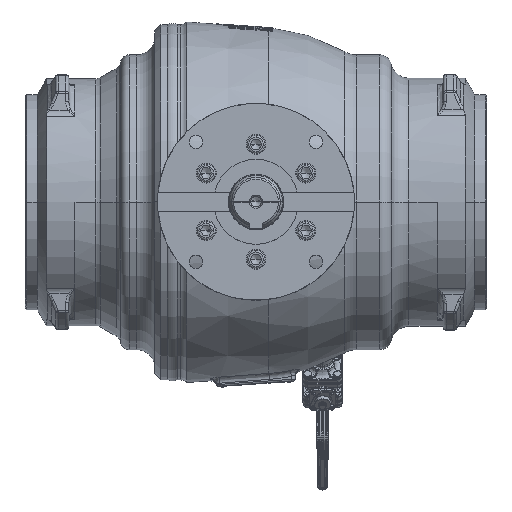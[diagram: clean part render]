
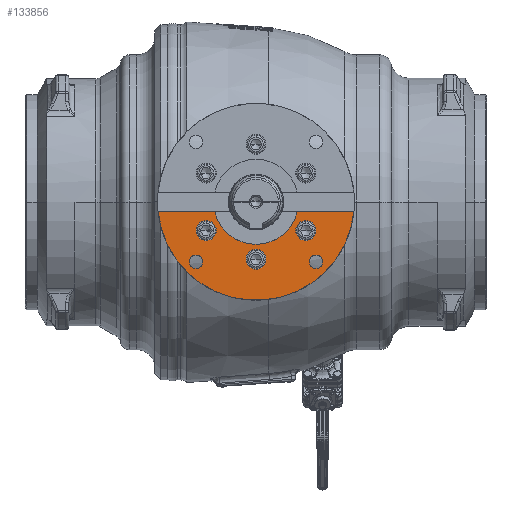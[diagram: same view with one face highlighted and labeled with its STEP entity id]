
A CAD part, top view. The second image highlights one B-rep face of the part: STEP entity #133856.
In plain terms, the highlighted planar face has unit normal (0, 0, 1).
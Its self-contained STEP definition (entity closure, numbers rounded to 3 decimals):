
#30819=DIRECTION('',(-1.,0.,0.));
#30820=VECTOR('',#30819,93.409);
#30821=CARTESIAN_POINT('',(161.71,-16.,443.));
#30822=LINE('',#30821,#30820);
#30823=CARTESIAN_POINT('',(0.,0.,443.));
#30824=DIRECTION('',(0.,0.,-1.));
#30825=DIRECTION('',(0.995,-0.098,0.));
#30826=AXIS2_PLACEMENT_3D('',#30823,#30824,#30825);
#30828=DIRECTION('',(-1.,0.,0.));
#30829=VECTOR('',#30828,93.409);
#30830=CARTESIAN_POINT('',(-68.301,-16.,443.));
#30831=LINE('',#30830,#30829);
#30832=CARTESIAN_POINT('',(82.272,-47.5,443.));
#30833=DIRECTION('',(0.,0.,-1.));
#30834=DIRECTION('',(1.,0.,0.));
#30835=AXIS2_PLACEMENT_3D('',#30832,#30833,#30834);
#30837=CARTESIAN_POINT('',(82.272,-47.5,443.));
#30838=DIRECTION('',(0.,0.,-1.));
#30839=DIRECTION('',(-1.,0.,0.));
#30840=AXIS2_PLACEMENT_3D('',#30837,#30838,#30839);
#30842=CARTESIAN_POINT('',(0.,-95.,443.));
#30843=DIRECTION('',(0.,0.,-1.));
#30844=DIRECTION('',(1.,0.,0.));
#30845=AXIS2_PLACEMENT_3D('',#30842,#30843,#30844);
#30847=CARTESIAN_POINT('',(0.,-95.,443.));
#30848=DIRECTION('',(0.,0.,-1.));
#30849=DIRECTION('',(-1.,0.,0.));
#30850=AXIS2_PLACEMENT_3D('',#30847,#30848,#30849);
#30852=CARTESIAN_POINT('',(-82.272,-47.5,443.));
#30853=DIRECTION('',(0.,0.,-1.));
#30854=DIRECTION('',(1.,0.,0.));
#30855=AXIS2_PLACEMENT_3D('',#30852,#30853,#30854);
#30857=CARTESIAN_POINT('',(-82.272,-47.5,443.));
#30858=DIRECTION('',(0.,0.,-1.));
#30859=DIRECTION('',(-1.,0.,0.));
#30860=AXIS2_PLACEMENT_3D('',#30857,#30858,#30859);
#30862=CARTESIAN_POINT('',(98.995,-98.995,443.));
#30863=DIRECTION('',(0.,0.,1.));
#30864=DIRECTION('',(-1.,0.,0.));
#30865=AXIS2_PLACEMENT_3D('',#30862,#30863,#30864);
#30867=CARTESIAN_POINT('',(98.995,-98.995,443.));
#30868=DIRECTION('',(0.,0.,1.));
#30869=DIRECTION('',(1.,0.,0.));
#30870=AXIS2_PLACEMENT_3D('',#30867,#30868,#30869);
#30872=CARTESIAN_POINT('',(-98.995,-98.995,443.));
#30873=DIRECTION('',(0.,0.,1.));
#30874=DIRECTION('',(-1.,0.,0.));
#30875=AXIS2_PLACEMENT_3D('',#30872,#30873,#30874);
#30877=CARTESIAN_POINT('',(-98.995,-98.995,443.));
#30878=DIRECTION('',(0.,0.,1.));
#30879=DIRECTION('',(1.,0.,0.));
#30880=AXIS2_PLACEMENT_3D('',#30877,#30878,#30879);
#30973=CARTESIAN_POINT('',(0.,0.,443.));
#30974=DIRECTION('',(0.,0.,-1.));
#30975=DIRECTION('',(0.974,-0.228,0.));
#30976=AXIS2_PLACEMENT_3D('',#30973,#30974,#30975);
#70959=CARTESIAN_POINT('',(161.71,-16.,443.));
#70961=VERTEX_POINT('',#70959);
#70963=CARTESIAN_POINT('',(-161.71,-16.,443.));
#70965=VERTEX_POINT('',#70963);
#70971=CARTESIAN_POINT('',(68.301,-16.,443.));
#70972=VERTEX_POINT('',#70971);
#70973=CARTESIAN_POINT('',(-68.301,-16.,443.));
#70974=VERTEX_POINT('',#70973);
#71043=CARTESIAN_POINT('',(-65.772,-47.5,443.));
#71044=CARTESIAN_POINT('',(-98.772,-47.5,443.));
#71045=VERTEX_POINT('',#71043);
#71046=VERTEX_POINT('',#71044);
#71059=CARTESIAN_POINT('',(87.995,-98.995,443.));
#71060=VERTEX_POINT('',#71059);
#71061=CARTESIAN_POINT('',(109.995,-98.995,443.));
#71062=VERTEX_POINT('',#71061);
#71075=CARTESIAN_POINT('',(-109.995,-98.995,443.));
#71076=CARTESIAN_POINT('',(-87.995,-98.995,443.));
#71077=VERTEX_POINT('',#71075);
#71078=VERTEX_POINT('',#71076);
#71115=CARTESIAN_POINT('',(16.5,-95.,443.));
#71116=CARTESIAN_POINT('',(-16.5,-95.,443.));
#71117=VERTEX_POINT('',#71115);
#71118=VERTEX_POINT('',#71116);
#71123=CARTESIAN_POINT('',(98.772,-47.5,443.));
#71124=CARTESIAN_POINT('',(65.772,-47.5,443.));
#71125=VERTEX_POINT('',#71123);
#71126=VERTEX_POINT('',#71124);
#133813=CARTESIAN_POINT('',(0.,0.,443.));
#133814=DIRECTION('',(0.,0.,-1.));
#133815=DIRECTION('',(-1.,0.,0.));
#133816=AXIS2_PLACEMENT_3D('',#133813,#133814,#133815);
#133817=PLANE('',#133816);
#133818=ORIENTED_EDGE('',*,*,#133800,.F.);
#133819=ORIENTED_EDGE('',*,*,#133789,.T.);
#133821=ORIENTED_EDGE('',*,*,#133820,.F.);
#133823=ORIENTED_EDGE('',*,*,#133822,.F.);
#133824=EDGE_LOOP('',(#133818,#133819,#133821,#133823));
#133825=FACE_OUTER_BOUND('',#133824,.F.);
#133827=ORIENTED_EDGE('',*,*,#133826,.F.);
#133829=ORIENTED_EDGE('',*,*,#133828,.F.);
#133830=EDGE_LOOP('',(#133827,#133829));
#133831=FACE_BOUND('',#133830,.F.);
#133833=ORIENTED_EDGE('',*,*,#133832,.F.);
#133835=ORIENTED_EDGE('',*,*,#133834,.F.);
#133836=EDGE_LOOP('',(#133833,#133835));
#133837=FACE_BOUND('',#133836,.F.);
#133839=ORIENTED_EDGE('',*,*,#133838,.F.);
#133841=ORIENTED_EDGE('',*,*,#133840,.F.);
#133842=EDGE_LOOP('',(#133839,#133841));
#133843=FACE_BOUND('',#133842,.F.);
#133845=ORIENTED_EDGE('',*,*,#133844,.T.);
#133847=ORIENTED_EDGE('',*,*,#133846,.T.);
#133848=EDGE_LOOP('',(#133845,#133847));
#133849=FACE_BOUND('',#133848,.F.);
#133851=ORIENTED_EDGE('',*,*,#133850,.T.);
#133853=ORIENTED_EDGE('',*,*,#133852,.T.);
#133854=EDGE_LOOP('',(#133851,#133853));
#133855=FACE_BOUND('',#133854,.F.);
#133856=ADVANCED_FACE('',(#133825,#133831,#133837,#133843,#133849,#133855),
#133817,.F.);
#30827=CIRCLE('',#30826,162.5);
#30836=CIRCLE('',#30835,16.5);
#30841=CIRCLE('',#30840,16.5);
#30846=CIRCLE('',#30845,16.5);
#30851=CIRCLE('',#30850,16.5);
#30856=CIRCLE('',#30855,16.5);
#30861=CIRCLE('',#30860,16.5);
#30866=CIRCLE('',#30865,11.);
#30871=CIRCLE('',#30870,11.);
#30876=CIRCLE('',#30875,11.);
#30881=CIRCLE('',#30880,11.);
#30977=CIRCLE('',#30976,70.15);
#133789=EDGE_CURVE('',#70961,#70965,#30827,.T.);
#133800=EDGE_CURVE('',#70961,#70972,#30822,.T.);
#133820=EDGE_CURVE('',#70974,#70965,#30831,.T.);
#133822=EDGE_CURVE('',#70972,#70974,#30977,.T.);
#133826=EDGE_CURVE('',#71125,#71126,#30836,.T.);
#133828=EDGE_CURVE('',#71126,#71125,#30841,.T.);
#133832=EDGE_CURVE('',#71117,#71118,#30846,.T.);
#133834=EDGE_CURVE('',#71118,#71117,#30851,.T.);
#133838=EDGE_CURVE('',#71045,#71046,#30856,.T.);
#133840=EDGE_CURVE('',#71046,#71045,#30861,.T.);
#133844=EDGE_CURVE('',#71060,#71062,#30866,.T.);
#133846=EDGE_CURVE('',#71062,#71060,#30871,.T.);
#133850=EDGE_CURVE('',#71077,#71078,#30876,.T.);
#133852=EDGE_CURVE('',#71078,#71077,#30881,.T.);
